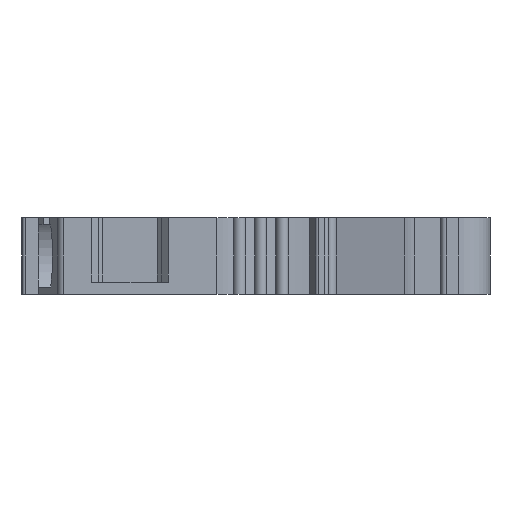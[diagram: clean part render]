
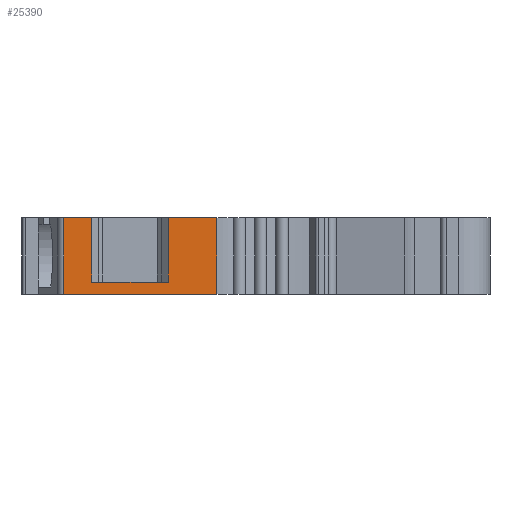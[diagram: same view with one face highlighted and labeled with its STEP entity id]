
A CAD part, left-side view. The second image highlights one B-rep face of the part: STEP entity #25390.
In plain terms, the highlighted planar face has unit normal (-1, 0, 0).
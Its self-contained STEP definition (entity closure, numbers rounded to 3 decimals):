
#13120=CARTESIAN_POINT('',(-45.9,16.,0.));
#13130=VERTEX_POINT('',#13120);
#13160=CARTESIAN_POINT('',(-45.9,7.7,
0.));
#13170=DIRECTION('',(0.,-1.,0.));
#13180=VECTOR('',#13170,1.);
#13190=LINE('',#13160,#13180);
#13200=CARTESIAN_POINT('',(-45.9,19.928,
0.));
#13210=VERTEX_POINT('',#13200);
#13220=EDGE_CURVE('',#13210,#13130,#13190,.T.);
#13920=CARTESIAN_POINT('',(-45.9,26.072,
0.));
#13930=VERTEX_POINT('',#13920);
#13960=CARTESIAN_POINT('',(-45.9,28.341,
0.));
#13970=VERTEX_POINT('',#13960);
#13980=EDGE_CURVE('',#13970,#13930,#13190,.T.);
#15040=CARTESIAN_POINT('',(-45.9,28.341,-6.2));
#15050=VERTEX_POINT('',#15040);
#15080=CARTESIAN_POINT('',(-45.9,0.,-6.2))
;
#15090=DIRECTION('',(0.,-1.,0.));
#15100=VECTOR('',#15090,1.);
#15110=LINE('',#15080,#15100);
#15120=CARTESIAN_POINT('',(-45.9,16.,-6.2));
#15130=VERTEX_POINT('',#15120);
#15140=EDGE_CURVE('',#15050,#15130,#15110,.T.);
#24890=CARTESIAN_POINT('',(-45.9,28.341,
0.));
#24900=DIRECTION('',(0.,0.,-1.));
#24910=VECTOR('',#24900,1.);
#24920=LINE('',#24890,#24910);
#24930=EDGE_CURVE('',#13970,#15050,#24920,.T.);
#25000=CARTESIAN_POINT('',(-45.9,16.,0.));
#25010=DIRECTION('',(1.,0.,0.));
#25020=DIRECTION('',(0.,-1.,0.));
#25030=AXIS2_PLACEMENT_3D('',#25000,#25010,#25020);
#25040=PLANE('',#25030);
#25050=ORIENTED_EDGE('',*,*,#13980,.F.);
#25060=CARTESIAN_POINT('',(-45.9,26.072,
0.));
#25070=DIRECTION('',(0.,0.,1.));
#25080=VECTOR('',#25070,1.);
#25090=LINE('',#25060,#25080);
#25100=CARTESIAN_POINT('',(-45.9,26.072,
-5.2));
#25110=VERTEX_POINT('',#25100);
#25120=EDGE_CURVE('',#25110,#13930,#25090,.T.);
#25130=ORIENTED_EDGE('',*,*,#25120,.T.);
#25140=CARTESIAN_POINT('',(-45.9,0.,
-5.2));
#25150=DIRECTION('',(0.,-1.,0.));
#25160=VECTOR('',#25150,1.);
#25170=LINE('',#25140,#25160);
#25180=CARTESIAN_POINT('',(-45.9,19.928,
-5.2));
#25190=VERTEX_POINT('',#25180);
#25200=EDGE_CURVE('',#25110,#25190,#25170,.T.);
#25210=ORIENTED_EDGE('',*,*,#25200,.F.);
#25220=CARTESIAN_POINT('',(-45.9,19.928,
0.));
#25230=DIRECTION('',(0.,0.,-1.));
#25240=VECTOR('',#25230,1.);
#25250=LINE('',#25220,#25240);
#25260=EDGE_CURVE('',#13210,#25190,#25250,.T.);
#25270=ORIENTED_EDGE('',*,*,#25260,.T.);
#25280=ORIENTED_EDGE('',*,*,#13220,.F.);
#25290=CARTESIAN_POINT('',(-45.9,16.,0.));
#25300=DIRECTION('',(0.,0.,-1.));
#25310=VECTOR('',#25300,1.);
#25320=LINE('',#25290,#25310);
#25330=EDGE_CURVE('',#13130,#15130,#25320,.T.);
#25340=ORIENTED_EDGE('',*,*,#25330,.F.);
#25350=ORIENTED_EDGE('',*,*,#15140,.T.);
#25360=ORIENTED_EDGE('',*,*,#24930,.T.);
#25370=EDGE_LOOP('',(#25360,#25350,#25340,#25280,#25270,#25210,#25130,
#25050));
#25380=FACE_OUTER_BOUND('',#25370,.T.);
#25390=ADVANCED_FACE('',(#25380),#25040,.F.);
